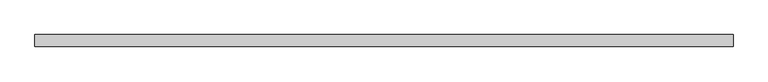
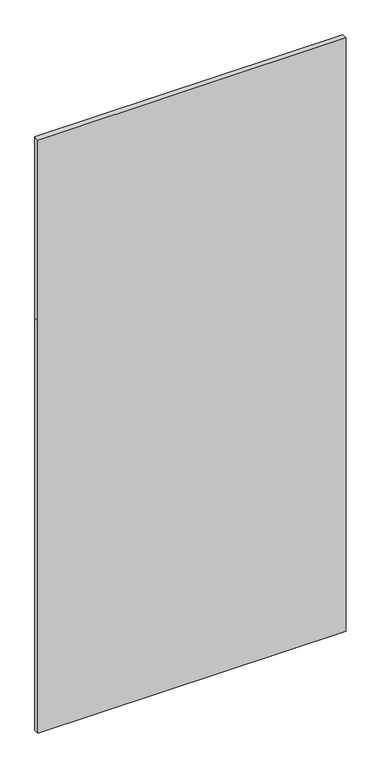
"""IFC4 building model written with IfcOpenShell, lengths in millimetres: plate geometry, Системная панель : С остеклением."""

from ifc_helpers import new_model, si_unit, frame, origin, place, context, project, spatial, polyline, outline, extrude, source, transform, mapped, element, save


def plate_83d8d891(model_context):
    return source(origin(), model_context, "Body", "SweptSolid", [
        extrude(outline(polyline([(0.0, -725.0), (0.0, 725.0), (2050.0, 725.0), (2950.0, 725.0), (2950.0, -725.0), (2050.0, -725.0), (0.0, -725.0)])), frame((0.0, -49.5, 0.0), z_axis=(0.0, 1.0, 0.0), x_axis=(0.0, 0.0, 1.0)), (0.0, 0.0, 1.0), 25.0),
    ])


if __name__ == "__main__":
    model = new_model("IFC4")
    model_context = context("Model", 3, world=origin())
    ifc_project = project(units=[si_unit("LENGTHUNIT", "METRE", prefix="MILLI")], contexts=[model_context])
    site = spatial("IfcSite", under=ifc_project)
    building = spatial("IfcBuilding", under=site)
    placement = place(None, origin())
    plate_shape = plate_83d8d891(model_context)
    element("IfcPlate", 1, ObjectType="Системная панель : С остеклением", at=placement, inside=building, context=model_context, shape_type="MappedRepresentation", body=[
        mapped(plate_shape, transform((0.0, 0.0, 0.0), x_axis=(1.0, 0.0, 0.0), y_axis=(0.0, 1.0, 0.0), z_axis=(0.0, 0.0, 1.0))),
    ])
    save(model, "model.ifc")
